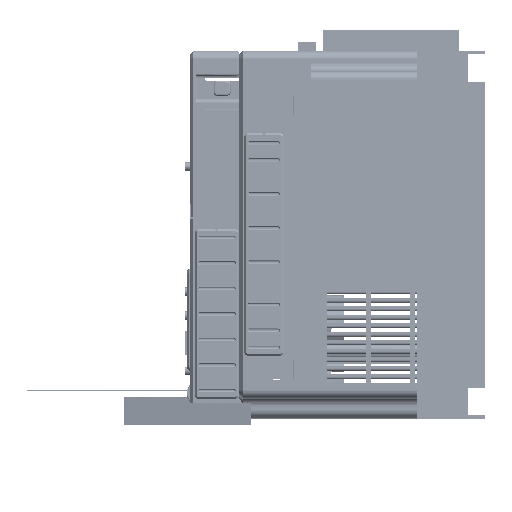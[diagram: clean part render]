
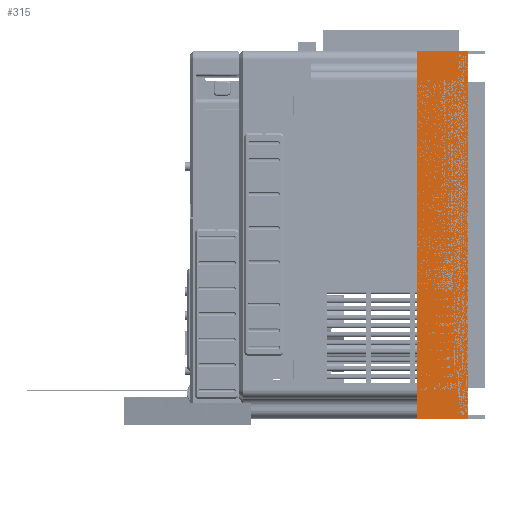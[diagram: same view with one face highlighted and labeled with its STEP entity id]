
A CAD part, left-side view. The second image highlights one B-rep face of the part: STEP entity #315.
In plain terms, the highlighted planar face has unit normal (-1, 0, 0).
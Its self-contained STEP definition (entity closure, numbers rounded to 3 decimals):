
#159=DIRECTION('',(0.,1.,0.));
#160=VECTOR('',#159,30.);
#161=CARTESIAN_POINT('',(-59.,0.,108.));
#162=LINE('',#161,#160);
#173=DIRECTION('',(0.,0.,-1.));
#174=VECTOR('',#173,18.);
#175=CARTESIAN_POINT('',(-59.,0.,108.));
#176=LINE('',#175,#174);
#180=DIRECTION('',(0.,0.,-1.));
#181=VECTOR('',#180,180.);
#182=CARTESIAN_POINT('',(-59.,0.,90.));
#183=LINE('',#182,#181);
#187=DIRECTION('',(0.,0.,-1.));
#188=VECTOR('',#187,18.);
#189=CARTESIAN_POINT('',(-59.,0.,-90.));
#190=LINE('',#189,#188);
#194=DIRECTION('',(0.,1.,0.));
#195=VECTOR('',#194,30.);
#196=CARTESIAN_POINT('',(-59.,0.,-108.));
#197=LINE('',#196,#195);
#201=DIRECTION('',(0.,0.,1.));
#202=VECTOR('',#201,216.);
#203=CARTESIAN_POINT('',(-59.,30.,-108.));
#204=LINE('',#203,#202);
#209=CARTESIAN_POINT('',(-59.,30.,-108.));
#211=VERTEX_POINT('',#209);
#214=CARTESIAN_POINT('',(-59.,30.,108.));
#215=VERTEX_POINT('',#214);
#218=CARTESIAN_POINT('',(-59.,0.,-108.));
#219=VERTEX_POINT('',#218);
#222=CARTESIAN_POINT('',(-59.,0.,108.));
#223=VERTEX_POINT('',#222);
#232=CARTESIAN_POINT('',(-59.,0.,90.));
#233=VERTEX_POINT('',#232);
#234=CARTESIAN_POINT('',(-59.,0.,-90.));
#235=VERTEX_POINT('',#234);
#298=CARTESIAN_POINT('',(-59.,0.,-108.));
#299=DIRECTION('',(-1.,0.,0.));
#300=DIRECTION('',(0.,0.,1.));
#301=AXIS2_PLACEMENT_3D('',#298,#299,#300);
#302=PLANE('',#301);
#304=ORIENTED_EDGE('',*,*,#303,.T.);
#306=ORIENTED_EDGE('',*,*,#305,.T.);
#308=ORIENTED_EDGE('',*,*,#307,.T.);
#309=ORIENTED_EDGE('',*,*,#255,.T.);
#311=ORIENTED_EDGE('',*,*,#310,.T.);
#312=ORIENTED_EDGE('',*,*,#290,.F.);
#313=EDGE_LOOP('',(#304,#306,#308,#309,#311,#312));
#314=FACE_OUTER_BOUND('',#313,.F.);
#315=ADVANCED_FACE('',(#314),#302,.T.);
#255=EDGE_CURVE('',#219,#211,#197,.T.);
#290=EDGE_CURVE('',#223,#215,#162,.T.);
#303=EDGE_CURVE('',#223,#233,#176,.T.);
#305=EDGE_CURVE('',#233,#235,#183,.T.);
#307=EDGE_CURVE('',#235,#219,#190,.T.);
#310=EDGE_CURVE('',#211,#215,#204,.T.);
